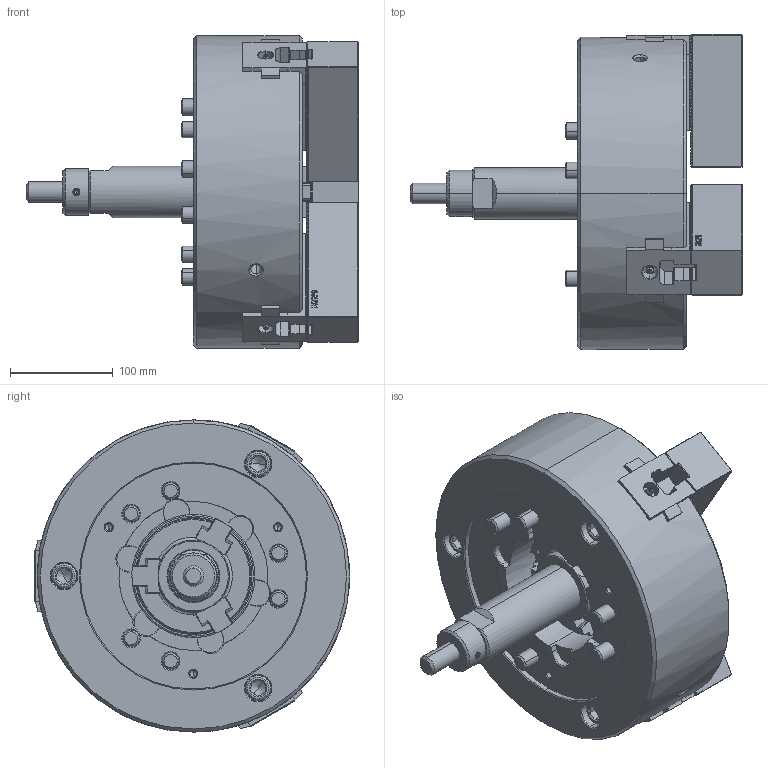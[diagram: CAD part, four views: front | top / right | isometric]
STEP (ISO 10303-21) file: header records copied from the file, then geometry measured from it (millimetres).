
FILE_DESCRIPTION (( 'STEP AP214' ), '1' );
FILE_NAME ('DT1_N-12_OUTSIDE_VIEW_UC.STEP', '2026-03-12T00:47:15', ( '' ), ( '' ), 'SwSTEP 2.0', 'SolidWorks 2022', '' );
FILE_SCHEMA (( 'AUTOMOTIVE_DESIGN' ));
Length unit declared in the file: millimetre
Products named in the file (11): DT1_N-12_M14x45^DT1_N-12; DT1_N-12_COVER^DT1_N-12; DT1_N-12_DN^DT1_N-12; DT1_N-12_DRAWSCREW^DT1_N-12; DT1_N-12_OUTSIDE_VIEW_UC; DT1_N-12_TNUT^DT1_N-12; DT1_N-12_M16x100^DT1_N-12; DT1_N-12_BASE^DT1_N-12; DT1_N-12_M5x12^DT1_N-12; DT1_N-12_SOFTJAW^DT1_N-12; Copy of 61P312753^DT1_N-12
Assembly tree (26 placements, depth 2):
  DT1_N-12_OUTSIDE_VIEW_UC
    DT1_N-12_SOFTJAW^DT1_N-12  x3
    DT1_N-12_TNUT^DT1_N-12  x3
    DT1_N-12_COVER^DT1_N-12
    DT1_N-12_DRAWSCREW^DT1_N-12
    Copy of 61P312753^DT1_N-12
    DT1_N-12_DN^DT1_N-12
    DT1_N-12_BASE^DT1_N-12
    DT1_N-12_M5x12^DT1_N-12  x3
    DT1_N-12_M14x45^DT1_N-12  x6
    DT1_N-12_M16x100^DT1_N-12  x6
Bounding box: 323.2 x 306.75 x 304 mm (x, y, z)
Volume: 8066516.9 mm3; surface area: 695276.4 mm2
Topology: 26 solids, 38 shells, 5266 faces, 14871 edges, 9744 vertices
Faces by surface type: plane 3827, cylinder 715, cone 434, bspline 225, torus 59, sphere 6
Entity records: 124164 total; most frequent: CARTESIAN_POINT 32888, ORIENTED_EDGE 20454, DIRECTION 16646, EDGE_CURVE 10227, LINE 7680, VECTOR 7680, VERTEX_POINT 6720, AXIS2_PLACEMENT_3D 4483
